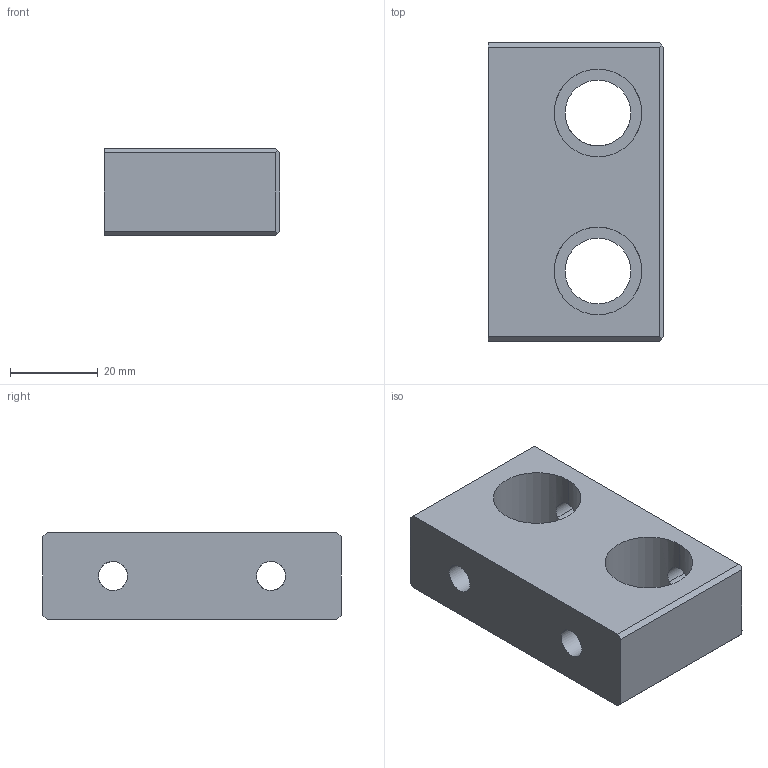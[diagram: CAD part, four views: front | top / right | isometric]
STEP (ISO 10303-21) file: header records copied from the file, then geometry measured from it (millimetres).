
FILE_DESCRIPTION(('CATIA V5 STEP Exchange'),'2;1');
FILE_NAME('D:\姚明阳\1、工装图纸\AGZ131\GZ-SDCG09_V4.stp','2025-02-06T05:50:40+00:00',('none'),('none'),'CATIA Version 5 Release 20 GA (IN-10)','CATIA V5 STEP AP203','none');
FILE_SCHEMA(('CONFIG_CONTROL_DESIGN'));
Length unit declared in the file: millimetre
Products named in the file (1): GZ-SDCG04_V1
Bounding box: 40 x 68 x 20 mm (x, y, z)
Volume: 41085.8 mm3; surface area: 11851.9 mm2
Topology: 1 solids, 1 shells, 32 faces, 96 edges, 64 vertices
Faces by surface type: cylinder 16, plane 16
Entity records: 1253 total; most frequent: CARTESIAN_POINT 372, ORIENTED_EDGE 192, DIRECTION 134, EDGE_CURVE 96, VERTEX_POINT 64, VECTOR 56, LINE 56, AXIS2_PLACEMENT_3D 50
